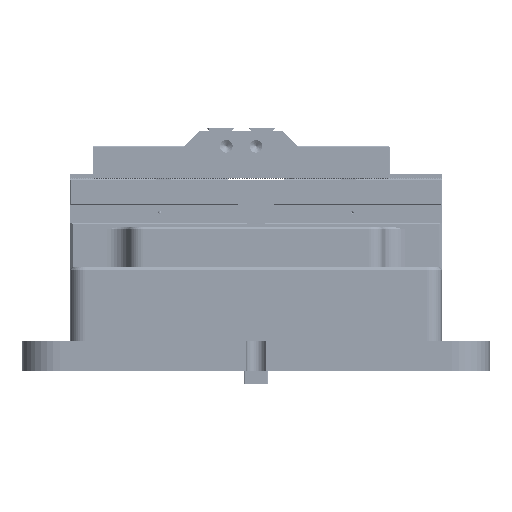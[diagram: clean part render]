
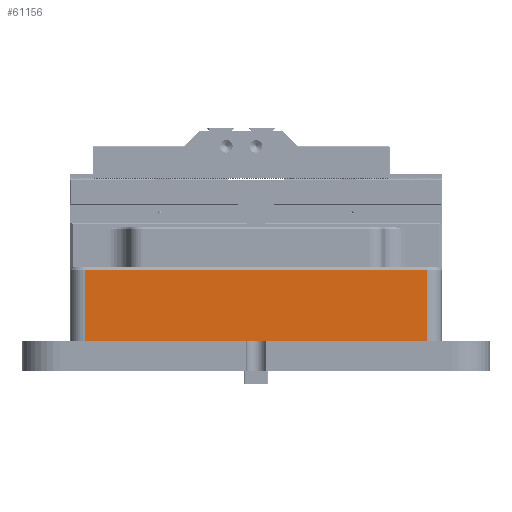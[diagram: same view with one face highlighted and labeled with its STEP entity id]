
A CAD part, left-side view. The second image highlights one B-rep face of the part: STEP entity #61156.
In plain terms, the highlighted planar face has unit normal (-1, 0, 0).
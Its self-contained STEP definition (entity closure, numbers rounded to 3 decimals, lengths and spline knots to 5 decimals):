
#2489=PLANE('',#64771);
#4870=FACE_OUTER_BOUND('',#8058,.T.);
#8058=EDGE_LOOP('',(#40568,#40569,#40570,#40571));
#11507=LINE('',#94814,#17955);
#11508=LINE('',#94816,#17956);
#11509=LINE('',#94818,#17957);
#11510=LINE('',#94819,#17958);
#17955=VECTOR('',#69531,0.23);
#17956=VECTOR('',#69532,0.0483);
#17957=VECTOR('',#69533,0.23);
#17958=VECTOR('',#69534,0.0483);
#25390=VERTEX_POINT('',#94812);
#25391=VERTEX_POINT('',#94813);
#25392=VERTEX_POINT('',#94815);
#25393=VERTEX_POINT('',#94817);
#31339=EDGE_CURVE('',#25390,#25391,#11507,.T.);
#31340=EDGE_CURVE('',#25390,#25392,#11508,.T.);
#31341=EDGE_CURVE('',#25392,#25393,#11509,.T.);
#31342=EDGE_CURVE('',#25393,#25391,#11510,.T.);
#40568=ORIENTED_EDGE('',*,*,#31339,.F.);
#40569=ORIENTED_EDGE('',*,*,#31340,.T.);
#40570=ORIENTED_EDGE('',*,*,#31341,.T.);
#40571=ORIENTED_EDGE('',*,*,#31342,.T.);
#61156=ADVANCED_FACE('',(#4870),#2489,.F.);
#64771=AXIS2_PLACEMENT_3D('',#94811,#69529,#69530);
#69529=DIRECTION('center_axis',(1.,0.,0.));
#69530=DIRECTION('ref_axis',(0.,0.,-1.));
#69531=DIRECTION('',(0.,1.,0.));
#69532=DIRECTION('',(0.,0.,1.));
#69533=DIRECTION('',(0.,1.,0.));
#69534=DIRECTION('',(0.,0.,-1.));
#94811=CARTESIAN_POINT('Origin',(-0.1075,0.,0.));
#94812=CARTESIAN_POINT('',(-0.1075,-0.04,-0.0398));
#94813=CARTESIAN_POINT('',(-0.1075,0.19,-0.0398));
#94814=CARTESIAN_POINT('',(-0.1075,-0.04,-0.0398));
#94815=CARTESIAN_POINT('',(-0.1075,-0.04,0.0085));
#94816=CARTESIAN_POINT('',(-0.1075,-0.04,-0.0398));
#94817=CARTESIAN_POINT('',(-0.1075,0.19,0.0085));
#94818=CARTESIAN_POINT('',(-0.1075,-0.04,0.0085));
#94819=CARTESIAN_POINT('',(-0.1075,0.19,0.0085));
